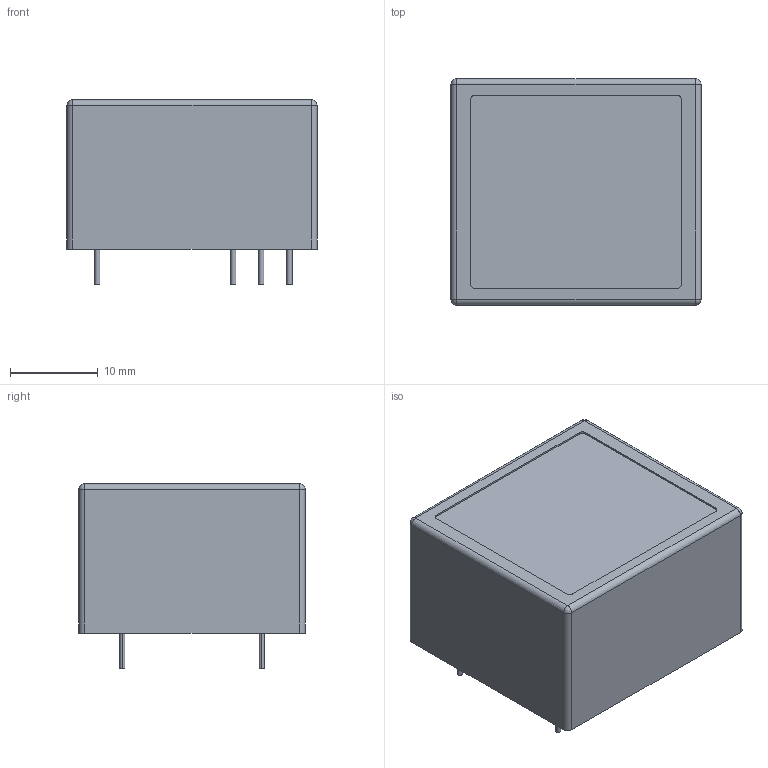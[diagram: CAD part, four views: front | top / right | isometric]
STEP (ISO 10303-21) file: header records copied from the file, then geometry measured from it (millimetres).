
FILE_DESCRIPTION((''),'2;1');
FILE_NAME('AZC','2016-01-28T',('arch'),(''),'PRO/ENGINEER BY PARAMETRIC TECHNOLOGY CORPORATION, 2008380','PRO/ENGINEER BY PARAMETRIC TECHNOLOGY CORPORATION, 2008380','');
FILE_SCHEMA(('CONFIG_CONTROL_DESIGN'));
Length unit declared in the file: millimetre
Products named in the file (1): AZC
Bounding box: 28.5 x 25.8 x 21 mm (x, y, z)
Volume: 12386.1 mm3; surface area: 3337.2 mm2
Topology: 1 solids, 1 shells, 48 faces, 102 edges, 64 vertices
Faces by surface type: cylinder 26, plane 18, sphere 4
Entity records: 1340 total; most frequent: DIRECTION 250, CARTESIAN_POINT 214, ORIENTED_EDGE 204, EDGE_CURVE 102, AXIS2_PLACEMENT_3D 100, VERTEX_POINT 64, EDGE_LOOP 56, CIRCLE 52
